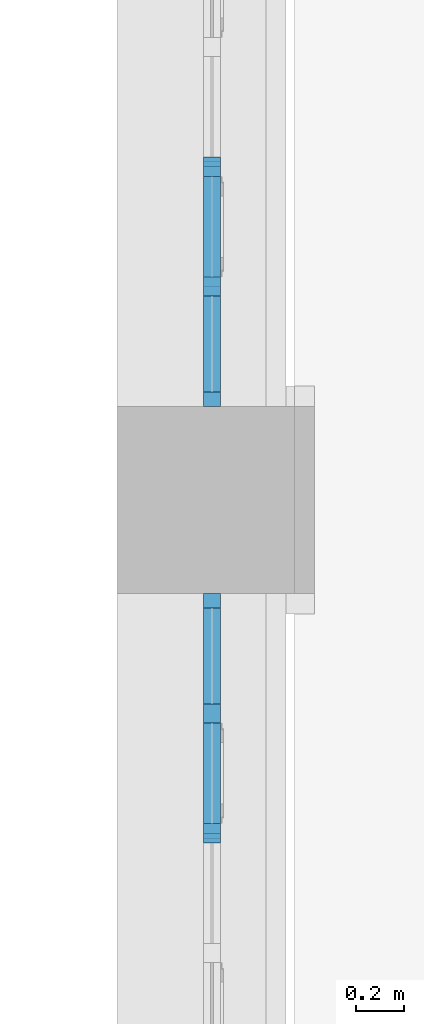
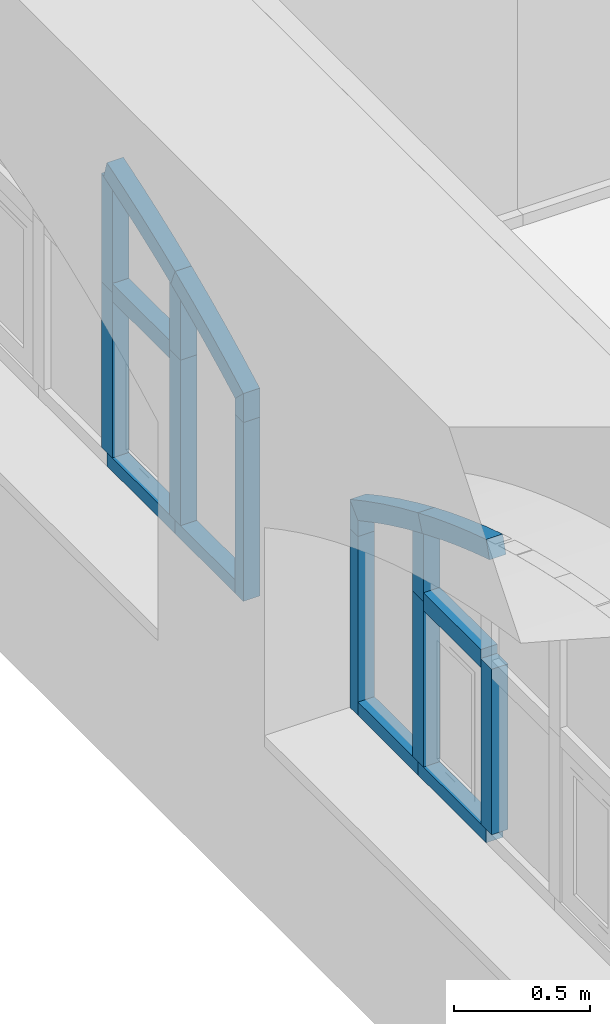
# One storey, part 9 of 32: 21 members, 2 elements without a shape of their own.
"""IFC2X3 building model written with IfcOpenShell, lengths in millimetres."""

import ifcopenshell
import ifcopenshell.guid

model = None  # the IFC model being written
_history = None  # IfcOwnerHistory: only IFC2X3 demands one
_inside = {}  # id of a spatial element -> (the spatial element, [elements in it])
_under = {}  # id of a project, library or spatial element -> (it, [spatial elements below it])
_declared = {}  # id of a project -> (the project, [libraries it declares])
_typed = {}  # id of a type object -> (the type object, [elements of that type])
_made_of = {}  # id of a material, layer set ... -> (it, [elements and type objects made of it])


def new_model(schema):
    """Start an empty IFC model of exactly this schema.

    Asked for "IFC4X3", IfcOpenShell would pick the latest addendum, in which some entities
    have other attributes; the version numbers below select the first issue.
    IFC2X3 requires an IfcOwnerHistory on every rooted entity: one is made here for all.
    """
    global model, _history
    if schema == "IFC4X3":
        model = ifcopenshell.file(schema_version=(4, 3, 0, 0))
    else:
        model = ifcopenshell.file(schema=schema)
    _inside.clear()
    _under.clear()
    _declared.clear()
    _typed.clear()
    _made_of.clear()
    _history = None
    if model.schema == "IFC2X3":
        org = make("IfcOrganization", Name="unknown")
        user = make(
            "IfcPersonAndOrganization",
            ThePerson=make("IfcPerson", FamilyName="unknown"),
            TheOrganization=org,
        )
        app = make(
            "IfcApplication",
            ApplicationDeveloper=org,
            Version="unknown",
            ApplicationFullName="unknown",
            ApplicationIdentifier="unknown",
        )
        _history = make(
            "IfcOwnerHistory",
            OwningUser=user,
            OwningApplication=app,
            ChangeAction="ADDED",
            CreationDate=0,
        )
    return model


def make(cls, **values):
    """One entity of the class cls with the attributes given. An attribute that is None is left unset."""
    return model.create_entity(
        cls, **{name: value for name, value in values.items() if value is not None}
    )


def entity(cls, *values):
    """Any entity or typed value of the class cls, its attributes in the order of the schema. None: left unset."""
    e = model.create_entity(cls)
    for i, value in enumerate(values):
        if value is not None:
            e[i] = value
    return e


def rooted(cls, **values):
    """An entity with a GlobalId (a new one), such as an element, a storey or a relation."""
    return make(cls, GlobalId=ifcopenshell.guid.new(), OwnerHistory=_history, **values)


def si_unit(unit_type, name, prefix=None):
    """IfcSIUnit, for example si_unit("LENGTHUNIT", "METRE", prefix="MILLI")."""
    return make("IfcSIUnit", UnitType=unit_type, Prefix=prefix, Name=name)


def converted_unit(unit_type, name, factor, base, dimensions=None, offset=None):
    """IfcConversionBasedUnit, such as the inch: factor (a typed value) times the base unit."""
    return make(
        "IfcConversionBasedUnit"
        if offset is None
        else "IfcConversionBasedUnitWithOffset",
        ConversionOffset=offset,
        Dimensions=None
        if dimensions is None
        else entity("IfcDimensionalExponents", *dimensions),
        UnitType=unit_type,
        Name=name,
        ConversionFactor=make(
            "IfcMeasureWithUnit", ValueComponent=factor, UnitComponent=base
        ),
    )


def derived_unit(unit_type, elements):
    """IfcDerivedUnit: a product of units, each with its exponent."""
    return make(
        "IfcDerivedUnit",
        Elements=[
            make("IfcDerivedUnitElement", Unit=unit, Exponent=power)
            for unit, power in elements
        ],
        UnitType=unit_type,
    )


def assignment(units):
    """IfcUnitAssignment: the units of a project."""
    return None if units is None else make("IfcUnitAssignment", Units=units)


def point(xyz):
    """IfcCartesianPoint."""
    return None if xyz is None else make("IfcCartesianPoint", Coordinates=xyz)


def direction(xyz):
    """IfcDirection."""
    return None if xyz is None else make("IfcDirection", DirectionRatios=xyz)


def frame(location, z_axis=None, x_axis=None):
    """IfcAxis2Placement3D, a coordinate frame: its origin and axes. An axis left out is left unset."""
    return make(
        "IfcAxis2Placement3D",
        Location=point(location),
        Axis=direction(z_axis),
        RefDirection=direction(x_axis),
    )


def frame_2d(location, x_axis=None):
    """IfcAxis2Placement2D, a coordinate frame in the plane: its origin and x axis."""
    return make(
        "IfcAxis2Placement2D", Location=point(location), RefDirection=direction(x_axis)
    )


def origin():
    """The frame at (0, 0, 0) with its axes left unset."""
    return frame((0.0, 0.0, 0.0))


def place(relative_to, where):
    """IfcLocalPlacement: puts the frame where relative to a parent placement (None: the world)."""
    return make(
        "IfcLocalPlacement", PlacementRelTo=relative_to, RelativePlacement=where
    )


def context(
    kind, dimensions, precision=None, world=None, true_north=None, identifier=None
):
    """IfcGeometricRepresentationContext, for example the 3D "Model" context."""
    return make(
        "IfcGeometricRepresentationContext",
        ContextIdentifier=identifier,
        ContextType=kind,
        CoordinateSpaceDimension=dimensions,
        Precision=precision,
        WorldCoordinateSystem=world,
        TrueNorth=true_north,
    )


def subcontext(parent, identifier, kind, view, scale=None):
    """IfcGeometricRepresentationSubContext, for example "Body" below "Model"."""
    return make(
        "IfcGeometricRepresentationSubContext",
        ContextIdentifier=identifier,
        ContextType=kind,
        ParentContext=parent,
        TargetScale=scale,
        TargetView=view,
    )


def project(units=None, contexts=None):
    """IfcProject with its units and contexts."""
    return rooted(
        "IfcProject",
        Name="project",
        RepresentationContexts=contexts,
        UnitsInContext=assignment(units),
    )


def spatial(cls, under=None, at=None, **own):
    """A site, building, storey or space (cls), placed at a placement, below another one or the project."""
    s = rooted(cls, ObjectPlacement=at, **own)
    if under is not None:
        _under.setdefault(under.id(), (under, []))[1].append(s)
    return s


def polyline(points):
    """IfcPolyline through the points."""
    return make("IfcPolyline", Points=[point(p) for p in points])


def circle_curve(where, radius):
    """IfcCircle in the frame where."""
    return make("IfcCircle", Position=where, Radius=radius)


def parameter(value):
    """IfcParameterValue: where a trimmed curve begins or ends, as a parameter of its basis curve."""
    return model.create_entity("IfcParameterValue", value)


def trimmed(basis, trim1, trim2, sense, master):
    """IfcTrimmedCurve: the piece of a basis curve between two trims."""
    return make(
        "IfcTrimmedCurve",
        BasisCurve=basis,
        Trim1=trim1,
        Trim2=trim2,
        SenseAgreement=sense,
        MasterRepresentation=master,
    )


def segment(curve, same_sense, transition):
    """IfcCompositeCurveSegment."""
    return make(
        "IfcCompositeCurveSegment",
        Transition=transition,
        SameSense=same_sense,
        ParentCurve=curve,
    )


def composite_curve(segments, self_intersect=None):
    """IfcCompositeCurve: segments joined end to end."""
    return make("IfcCompositeCurve", Segments=segments, SelfIntersect=self_intersect)


def profile(cls, at=None, kind="AREA", **sizes):
    """A parametric profile (cls). Its sizes go by their IFC names, for example OverallWidth=200.0."""
    return make(cls, ProfileType=kind, Position=at, **sizes)


def rectangle(**sizes):
    """IfcRectangleProfileDef."""
    return profile("IfcRectangleProfileDef", **sizes)


def outline(outer, holes=None, kind="AREA"):
    """IfcArbitraryClosedProfileDef: a profile drawn as a closed curve; with holes, ...WithVoids."""
    if holes is None:
        return make("IfcArbitraryClosedProfileDef", ProfileType=kind, OuterCurve=outer)
    return make(
        "IfcArbitraryProfileDefWithVoids",
        ProfileType=kind,
        OuterCurve=outer,
        InnerCurves=holes,
    )


def extrude(swept, where, along, depth):
    """IfcExtrudedAreaSolid: the profile swept, set in the frame where, extruded along a direction by depth."""
    return make(
        "IfcExtrudedAreaSolid",
        SweptArea=swept,
        Position=where,
        ExtrudedDirection=direction(along),
        Depth=depth,
    )


def shape(context_of_items, identifier, shape_type, items):
    """IfcShapeRepresentation: the items that make up one representation, for example the "Body"."""
    return make(
        "IfcShapeRepresentation",
        ContextOfItems=context_of_items,
        RepresentationIdentifier=identifier,
        RepresentationType=shape_type,
        Items=items,
    )


def source(mapping_origin, context_of_items, identifier, shape_type, items):
    """IfcRepresentationMap: a shape defined once, which mapped items show again and again."""
    return make(
        "IfcRepresentationMap",
        MappingOrigin=mapping_origin,
        MappedRepresentation=shape(context_of_items, identifier, shape_type, items),
    )


def transform(
    local_origin,
    x_axis=None,
    y_axis=None,
    z_axis=None,
    scale=None,
    scale2=None,
    scale3=None,
    uniform=True,
):
    """IfcCartesianTransformationOperator3D, or its non-uniform kind. x_axis, y_axis, z_axis: its Axis1, 2, 3."""
    if uniform:
        return make(
            "IfcCartesianTransformationOperator3D",
            Axis1=direction(x_axis),
            Axis2=direction(y_axis),
            LocalOrigin=point(local_origin),
            Scale=scale,
            Axis3=direction(z_axis),
        )
    return make(
        "IfcCartesianTransformationOperator3DnonUniform",
        Axis1=direction(x_axis),
        Axis2=direction(y_axis),
        LocalOrigin=point(local_origin),
        Scale=scale,
        Axis3=direction(z_axis),
        Scale2=scale2,
        Scale3=scale3,
    )


def mapped(mapping_source, mapping_target):
    """IfcMappedItem: shows the shape of a source again, moved by a transform."""
    return make(
        "IfcMappedItem", MappingSource=mapping_source, MappingTarget=mapping_target
    )


def material(Name=None, Category=None):
    """IfcMaterial."""
    return make("IfcMaterial", Name=Name, Category=Category)


def made_of(thing, what):
    """Note that an element or type object is made of a material, layer set ...; save() writes the relation."""
    if what is not None:
        _made_of.setdefault(what.id(), (what, []))[1].append(thing)
    return thing


def type_object(cls, material=None, **own):
    """A type object (cls), such as IfcWallType, which elements share."""
    return made_of(rooted(cls, **own), material)


def type_shapes(of_type, sources):
    """Give a type object the sources (RepresentationMaps) that its elements show as mapped items."""
    of_type.RepresentationMaps = sources


def element(
    cls,
    number,
    at=None,
    inside=None,
    cuts=None,
    type_object=None,
    material=None,
    context=None,
    identifier="Body",
    shape_type=None,
    held_by="IfcProductDefinitionShape",
    body=None,
    shapes=None,
    **own,
):
    """One element of the class cls, such as IfcWall. Its Tag is "e" and its number.

    at: its placement. inside: the storey or other place that contains it. cuts: it is an
    opening in that element (IfcRelVoidsElement). A single representation is given by context,
    identifier, shape_type and body (its items); several are given by shapes. held_by: the class
    of the entity that holds the representations. save() writes the other relations.
    """
    e = rooted(cls, Tag="e%d" % number, ObjectPlacement=at, **own)
    if body is not None:
        shapes = [shape(context, identifier, shape_type, body)]
    if shapes is not None:
        e.Representation = make(held_by, Representations=shapes)
    if inside is not None:
        _inside.setdefault(inside.id(), (inside, []))[1].append(e)
    if cuts is not None:
        rooted(
            "IfcRelVoidsElement", RelatingBuildingElement=cuts, RelatedOpeningElement=e
        )
    if type_object is not None:
        _typed.setdefault(type_object.id(), (type_object, []))[1].append(e)
    return made_of(e, material)


def aggregate(whole, parts):
    """IfcRelAggregates: a whole, such as a stair, and the parts it consists of."""
    return rooted("IfcRelAggregates", RelatingObject=whole, RelatedObjects=parts)


def save(model, path):
    """Write the relations noted so far, then the file.

    IfcRelAggregates (storeys below a building ...), IfcRelContainedInSpatialStructure (elements
    in a storey), IfcRelDefinesByType, IfcRelAssociatesMaterial and IfcRelDeclares: one each for
    every whole, place, type object, material and project.
    """
    for whole, parts in _under.values():
        aggregate(whole, parts)
    for where, things in _inside.values():
        rooted(
            "IfcRelContainedInSpatialStructure",
            RelatedElements=things,
            RelatingStructure=where,
        )
    for kind, things in _typed.values():
        rooted("IfcRelDefinesByType", RelatedObjects=things, RelatingType=kind)
    for what, things in _made_of.values():
        rooted("IfcRelAssociatesMaterial", RelatedObjects=things, RelatingMaterial=what)
    for by, libraries in _declared.values():
        rooted("IfcRelDeclares", RelatingContext=by, RelatedDefinitions=libraries)
    model.write(path)


model = new_model("IFC2X3")

# Units and contexts
model_context = context("Model", 3, precision=0.01, world=origin(), true_north=direction((6.123031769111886e-17, 1.0)))
body_context = subcontext(model_context, "Body", "Model", "MODEL_VIEW")
ifc_project = project(units=[si_unit("LENGTHUNIT", "METRE", prefix="MILLI"), si_unit("AREAUNIT", "SQUARE_METRE"), si_unit("VOLUMEUNIT", "CUBIC_METRE"), converted_unit("PLANEANGLEUNIT", "DEGREE", entity("IfcPlaneAngleMeasure", 0.017453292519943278), si_unit("PLANEANGLEUNIT", "RADIAN"), dimensions=[0, 0, 0, 0, 0, 0, 0]), si_unit("MASSUNIT", "GRAM", prefix="KILO"), derived_unit("MASSDENSITYUNIT", [(si_unit("MASSUNIT", "GRAM", prefix="KILO"), 1), (si_unit("LENGTHUNIT", "METRE"), -3)]), derived_unit("IONCONCENTRATIONUNIT", [(si_unit("MASSUNIT", "GRAM", prefix="KILO"), 1), (si_unit("LENGTHUNIT", "METRE"), -3)]), derived_unit("MOMENTOFINERTIAUNIT", [(si_unit("LENGTHUNIT", "METRE"), 4)]), si_unit("TIMEUNIT", "SECOND"), si_unit("FREQUENCYUNIT", "HERTZ"), si_unit("THERMODYNAMICTEMPERATUREUNIT", "DEGREE_CELSIUS"), derived_unit("THERMALTRANSMITTANCEUNIT", [(si_unit("MASSUNIT", "GRAM", prefix="KILO"), 1), (si_unit("THERMODYNAMICTEMPERATUREUNIT", "KELVIN"), -1), (si_unit("TIMEUNIT", "SECOND"), -3)]), derived_unit("THERMALCONDUCTANCEUNIT", [(si_unit("MASSUNIT", "GRAM", prefix="KILO"), 1), (si_unit("THERMODYNAMICTEMPERATUREUNIT", "KELVIN"), -1), (si_unit("TIMEUNIT", "SECOND"), -3), (si_unit("LENGTHUNIT", "METRE"), 1)]), derived_unit("VOLUMETRICFLOWRATEUNIT", [(si_unit("LENGTHUNIT", "METRE", prefix="DECI"), 3), (si_unit("TIMEUNIT", "SECOND"), -1)]), derived_unit("MASSFLOWRATEUNIT", [(si_unit("MASSUNIT", "GRAM", prefix="KILO"), 1), (si_unit("TIMEUNIT", "SECOND"), -1)]), derived_unit("ROTATIONALFREQUENCYUNIT", [(si_unit("TIMEUNIT", "SECOND"), -1)]), si_unit("ELECTRICCURRENTUNIT", "AMPERE"), si_unit("ELECTRICVOLTAGEUNIT", "VOLT"), si_unit("POWERUNIT", "WATT"), si_unit("FORCEUNIT", "NEWTON", prefix="KILO"), si_unit("ILLUMINANCEUNIT", "LUX"), si_unit("LUMINOUSFLUXUNIT", "LUMEN"), si_unit("LUMINOUSINTENSITYUNIT", "CANDELA"), si_unit("ENERGYUNIT", "JOULE"), derived_unit("USERDEFINED", [(si_unit("MASSUNIT", "GRAM", prefix="KILO"), -1), (si_unit("LENGTHUNIT", "METRE"), -2), (si_unit("TIMEUNIT", "SECOND"), 3), (si_unit("LUMINOUSFLUXUNIT", "LUMEN"), 1)]), derived_unit("USERDEFINED", [(si_unit("MASSUNIT", "GRAM", prefix="KILO"), 1), (si_unit("TIMEUNIT", "SECOND"), -3), (si_unit("LENGTHUNIT", "METRE"), 3), (si_unit("ELECTRICCURRENTUNIT", "AMPERE"), -2)]), derived_unit("SOUNDPOWERUNIT", [(si_unit("MASSUNIT", "GRAM", prefix="KILO"), 1), (si_unit("TIMEUNIT", "SECOND"), -3), (si_unit("LENGTHUNIT", "METRE"), 2)]), derived_unit("SOUNDPRESSUREUNIT", [(si_unit("MASSUNIT", "GRAM", prefix="KILO"), 1), (si_unit("LENGTHUNIT", "METRE"), -1), (si_unit("TIMEUNIT", "SECOND"), -2)]), derived_unit("LINEARVELOCITYUNIT", [(si_unit("LENGTHUNIT", "METRE"), 1), (si_unit("TIMEUNIT", "SECOND"), -1)]), si_unit("PRESSUREUNIT", "PASCAL"), derived_unit("USERDEFINED", [(si_unit("MASSUNIT", "GRAM", prefix="KILO"), 1), (si_unit("LENGTHUNIT", "METRE"), -2), (si_unit("TIMEUNIT", "SECOND"), -2)]), derived_unit("LINEARFORCEUNIT", [(si_unit("MASSUNIT", "GRAM", prefix="KILO"), 1), (si_unit("TIMEUNIT", "SECOND"), -2)]), derived_unit("PLANARFORCEUNIT", [(si_unit("MASSUNIT", "GRAM", prefix="KILO"), 1), (si_unit("LENGTHUNIT", "METRE"), -1), (si_unit("TIMEUNIT", "SECOND"), -2)]), derived_unit("SPECIFICHEATCAPACITYUNIT", [(si_unit("THERMODYNAMICTEMPERATUREUNIT", "KELVIN"), -1), (si_unit("LENGTHUNIT", "METRE"), 2), (si_unit("TIMEUNIT", "SECOND"), -2)]), derived_unit("HEATFLUXDENSITYUNIT", [(si_unit("MASSUNIT", "GRAM", prefix="KILO"), 1), (si_unit("TIMEUNIT", "SECOND"), -3)]), derived_unit("HEATINGVALUEUNIT", [(si_unit("LENGTHUNIT", "METRE"), 2), (si_unit("TIMEUNIT", "SECOND"), -2)]), derived_unit("VAPORPERMEABILITYUNIT", [(si_unit("LENGTHUNIT", "METRE"), -1), (si_unit("TIMEUNIT", "SECOND"), 1)]), derived_unit("DYNAMICVISCOSITYUNIT", [(si_unit("MASSUNIT", "GRAM", prefix="KILO"), 1), (si_unit("TIMEUNIT", "SECOND"), -1), (si_unit("LENGTHUNIT", "METRE"), -1)]), derived_unit("THERMALEXPANSIONCOEFFICIENTUNIT", [(si_unit("THERMODYNAMICTEMPERATUREUNIT", "KELVIN"), -1)]), derived_unit("MODULUSOFELASTICITYUNIT", [(si_unit("MASSUNIT", "GRAM", prefix="KILO"), 1), (si_unit("LENGTHUNIT", "METRE"), -1), (si_unit("TIMEUNIT", "SECOND"), -2)]), derived_unit("ISOTHERMALMOISTURECAPACITYUNIT", [(si_unit("MASSUNIT", "GRAM", prefix="KILO"), -1), (si_unit("LENGTHUNIT", "METRE"), 3)]), derived_unit("MOISTUREDIFFUSIVITYUNIT", [(si_unit("TIMEUNIT", "SECOND"), -1), (si_unit("LENGTHUNIT", "METRE"), 2)]), derived_unit("MASSPERLENGTHUNIT", [(si_unit("MASSUNIT", "GRAM", prefix="KILO"), 1), (si_unit("LENGTHUNIT", "METRE"), -1)]), derived_unit("THERMALRESISTANCEUNIT", [(si_unit("MASSUNIT", "GRAM", prefix="KILO"), -1), (si_unit("TIMEUNIT", "SECOND"), 3), (si_unit("THERMODYNAMICTEMPERATUREUNIT", "KELVIN"), 1)]), derived_unit("ACCELERATIONUNIT", [(si_unit("LENGTHUNIT", "METRE"), 1), (si_unit("TIMEUNIT", "SECOND"), -2)]), derived_unit("ANGULARVELOCITYUNIT", [(si_unit("TIMEUNIT", "SECOND"), -1), (si_unit("PLANEANGLEUNIT", "RADIAN"), 1)]), derived_unit("LINEARSTIFFNESSUNIT", [(si_unit("MASSUNIT", "GRAM", prefix="KILO"), 1), (si_unit("TIMEUNIT", "SECOND"), -2)]), derived_unit("WARPINGCONSTANTUNIT", [(si_unit("LENGTHUNIT", "METRE"), 6)]), derived_unit("LINEARMOMENTUNIT", [(si_unit("MASSUNIT", "GRAM", prefix="KILO"), 1), (si_unit("LENGTHUNIT", "METRE"), 1), (si_unit("TIMEUNIT", "SECOND"), -2)]), derived_unit("TORQUEUNIT", [(si_unit("MASSUNIT", "GRAM", prefix="KILO"), 1), (si_unit("LENGTHUNIT", "METRE"), 2), (si_unit("TIMEUNIT", "SECOND"), -2)])], contexts=[model_context])

# Site, building, storey
site_placement = place(None, origin())
site = spatial("IfcSite", under=ifc_project, at=site_placement, Name="Default", CompositionType="ELEMENT")
building_placement = place(site_placement, origin())
building = spatial("IfcBuilding", under=site, at=building_placement, Name="Eesti Rahvusraamatukogu hoone renoveerimise projekteerimistööd", CompositionType="ELEMENT")
storey_placement = place(building_placement, frame((0.0, 0.0, 4950.000000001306)))
storey = spatial("IfcBuildingStorey", under=building, at=storey_placement, Name="2. korrus", CompositionType="ELEMENT", Elevation=4950.000000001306)

# Curtain wall, member
curtain_wall_type = type_object("IfcCurtainWallType", Name="Curtain Wall:Ak-04", PredefinedType="NOTDEFINED")
curtain_wall_1_placement = place(storey_placement, frame((0.0, 0.0, -4950.000000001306)))
curtain_wall_1 = element("IfcCurtainWall", 1, at=curtain_wall_1_placement, inside=storey, type_object=curtain_wall_type, Name="Curtain Wall:Ak-04", ObjectType="Curtain Wall:Ak-04")
ifc_material = material(Name="LUMION_dark steel window frames")
member_type_1 = type_object("IfcMemberType", Name="Rectangular Mullion:NEW 80x70mm", PredefinedType="MULLION", material=ifc_material)
shared_shape_1 = source(origin(), body_context, "Body", "SweptSolid", [
    extrude(rectangle(XDim=80.0, YDim=70.0, at=frame_2d((0.0, -3.552713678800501e-15), x_axis=(1.0, 0.0))), frame((0.0, 0.0, -420.0), z_axis=(0.0, 0.0, 1.0), x_axis=(-1.0, 0.0, 0.0)), (0.0, 0.0, 1.0), 419.999999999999),
])
type_shapes(member_type_1, [shared_shape_1])
member_1_placement = place(curtain_wall_1_placement, frame((-36383.9999999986, 19288.695591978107, 6550.000000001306), z_axis=(0.0, -1.0, 0.0), x_axis=(0.0, 0.0, 1.0)))
member_1 = element("IfcMember", 2, at=member_1_placement, type_object=member_type_1, material=ifc_material, Name="Rectangular Mullion:NEW 80x70mm", ObjectType="Rectangular Mullion:NEW 80x70mm", context=body_context, shape_type="MappedRepresentation", body=[
    mapped(shared_shape_1, transform((0.0, 0.0, 0.0), scale=1.0)),
])

curtain_wall_2_placement = place(storey_placement, frame((0.0, 0.0, -4950.000000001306)))
curtain_wall_2 = element("IfcCurtainWall", 3, at=curtain_wall_2_placement, inside=storey, type_object=curtain_wall_type, Name="Curtain Wall:Ak-04", ObjectType="Curtain Wall:Ak-04")
member_2_placement = place(curtain_wall_2_placement, frame((-36383.999999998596, 17008.695591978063, 6550.000000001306), z_axis=(0.0, -1.0, 0.0), x_axis=(0.0, 0.0, 1.0)))
member_2 = element("IfcMember", 4, at=member_2_placement, type_object=member_type_1, material=ifc_material, Name="Rectangular Mullion:NEW 80x70mm", ObjectType="Rectangular Mullion:NEW 80x70mm", context=body_context, shape_type="MappedRepresentation", body=[
    mapped(shared_shape_1, transform((0.0, 0.0, 0.0), scale=1.0)),
])

# Member
member_type_2 = type_object("IfcMemberType", Name="Rectangular Mullion:NEW 60x70mm", PredefinedType="MULLION", material=ifc_material)
shared_shape_2 = source(origin(), body_context, "Body", "SweptSolid", [
    extrude(rectangle(XDim=60.0, YDim=70.0, at=frame_2d((0.0, 3.552713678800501e-15), x_axis=(1.0, 0.0))), frame((-30.0, 0.0, -500.0), z_axis=(0.0, 0.0, 1.0), x_axis=(-1.0, 0.0, 0.0)), (0.0, 0.0, 1.0), 499.999999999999),
])
type_shapes(member_type_2, [shared_shape_2])
member_3_placement = place(curtain_wall_1_placement, frame((-36383.9999999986, 19748.695591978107, 5750.000000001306), z_axis=(0.0, 1.0, 0.0), x_axis=(0.0, 0.0, -1.0)))
member_3 = element("IfcMember", 5, at=member_3_placement, type_object=member_type_2, material=ifc_material, Name="Rectangular Mullion:NEW 60x70mm", ObjectType="Rectangular Mullion:NEW 60x70mm", context=body_context, shape_type="MappedRepresentation", body=[
    mapped(shared_shape_2, transform((0.0, 0.0, 0.0), scale=1.0)),
])

member_4_placement = place(curtain_wall_2_placement, frame((-36383.999999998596, 17468.695591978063, 5750.000000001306), z_axis=(0.0, 1.0, 0.0), x_axis=(0.0, 0.0, -1.0)))
member_4 = element("IfcMember", 6, at=member_4_placement, type_object=member_type_2, material=ifc_material, Name="Rectangular Mullion:NEW 60x70mm", ObjectType="Rectangular Mullion:NEW 60x70mm", context=body_context, shape_type="MappedRepresentation", body=[
    mapped(shared_shape_2, transform((0.0, 0.0, 0.0), scale=1.0)),
])

member_type_3 = type_object("IfcMemberType", Name="Rectangular Mullion:NEW 60x70mm", PredefinedType="MULLION", material=ifc_material)
shared_shape_3 = source(origin(), body_context, "Body", "SweptSolid", [
    extrude(rectangle(XDim=60.0, YDim=70.0, at=frame_2d((0.0, 3.552713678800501e-15), x_axis=(1.0, 0.0))), frame((-30.0, 0.0, -440.0), z_axis=(0.0, 0.0, 1.0), x_axis=(-1.0, 0.0, 0.0)), (0.0, 0.0, 1.0), 439.9999999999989),
])
type_shapes(member_type_3, [shared_shape_3])
member_5_placement = place(curtain_wall_1_placement, frame((-36383.9999999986, 19248.695591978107, 5750.000000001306), z_axis=(0.0, 1.0, 0.0), x_axis=(0.0, 0.0, -1.0)))
member_5 = element("IfcMember", 7, at=member_5_placement, type_object=member_type_3, material=ifc_material, Name="Rectangular Mullion:NEW 60x70mm", ObjectType="Rectangular Mullion:NEW 60x70mm", context=body_context, shape_type="MappedRepresentation", body=[
    mapped(shared_shape_3, transform((0.0, 0.0, 0.0), scale=1.0)),
])

member_type_4 = type_object("IfcMemberType", Name="Rectangular Mullion:NEW 60x70mm", PredefinedType="MULLION", material=ifc_material)
shared_shape_4 = source(origin(), body_context, "Body", "SweptSolid", [
    extrude(rectangle(XDim=60.0, YDim=70.0, at=frame_2d((0.0, 3.552713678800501e-15), x_axis=(1.0, 0.0))), frame((-30.0, 0.0, -440.0), z_axis=(0.0, 0.0, 1.0), x_axis=(-1.0, 0.0, 0.0)), (0.0, 0.0, 1.0), 439.9999999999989),
])
type_shapes(member_type_4, [shared_shape_4])
member_6_placement = place(curtain_wall_2_placement, frame((-36383.999999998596, 17908.6955919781, 5750.000000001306), z_axis=(0.0, 1.0, 0.0), x_axis=(0.0, 0.0, -1.0)))
member_6 = element("IfcMember", 8, at=member_6_placement, type_object=member_type_4, material=ifc_material, Name="Rectangular Mullion:NEW 60x70mm", ObjectType="Rectangular Mullion:NEW 60x70mm", context=body_context, shape_type="MappedRepresentation", body=[
    mapped(shared_shape_4, transform((0.0, 0.0, 0.0), scale=1.0)),
])

member_type_5 = type_object("IfcMemberType", Name="Rectangular Mullion:NEW 80x70mm", PredefinedType="MULLION", material=ifc_material)
shared_shape_5 = source(origin(), body_context, "Body", "SweptSolid", [
    extrude(outline(composite_curve([segment(polyline([(-174.30772999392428, -46.24561306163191), (94.42385048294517, -46.24561306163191)]), True, "CONTINUOUS"), segment(trimmed(circle_curve(frame_2d((-4754.083849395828, 2093.7543869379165), x_axis=(0.8754595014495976, -0.48329148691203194)), 5299.776119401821), [parameter(5.085231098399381)], [parameter(5.924265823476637)], True, "PARAMETER"), True, "CONTINUOUS"), segment(trimmed(circle_curve(frame_2d((-4754.0838493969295, 2093.7543869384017), x_axis=(0.9206661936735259, -0.3903508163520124)), 5299.776119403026), [parameter(0.0)], [parameter(0.10296582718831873)], True, "PARAMETER"), True, "CONTINUOUS"), segment(polyline([(128.9507517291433, 33.75438693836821), (-174.30772999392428, 33.75438693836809)]), True, "CONTINUOUS"), segment(polyline([(-174.30772999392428, 33.75438693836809), (-174.30772999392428, -46.24561306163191)]), True, "CONTINUOUS")], self_intersect=False)), frame((-6.245613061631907, -35.0, -174.30772999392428), z_axis=(0.0, 1.0, 0.0), x_axis=(0.0, 0.0, -1.0)), (0.0, 0.0, 1.0), 70.00000000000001),
])
type_shapes(member_type_5, [shared_shape_5])
member_7_placement = place(curtain_wall_1_placement, frame((-36383.9999999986, 19248.695591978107, 6550.000000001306), z_axis=(0.0, 0.0, -1.0), x_axis=(0.0, -1.0, 0.0)))
member_7 = element("IfcMember", 9, at=member_7_placement, type_object=member_type_5, material=ifc_material, Name="Rectangular Mullion:NEW 80x70mm", ObjectType="Rectangular Mullion:NEW 80x70mm", context=body_context, shape_type="MappedRepresentation", body=[
    mapped(shared_shape_5, transform((0.0, 0.0, 0.0), scale=1.0)),
])

member_type_6 = type_object("IfcMemberType", Name="Rectangular Mullion:NEW 80x70mm", PredefinedType="MULLION", material=ifc_material)
shared_shape_6 = source(origin(), body_context, "Body", "SweptSolid", [
    extrude(rectangle(XDim=80.0, YDim=70.0, at=frame_2d((0.0, -3.552713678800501e-15), x_axis=(1.0, 0.0))), frame((0.0, 0.0, -740.0), z_axis=(0.0, 0.0, 1.0), x_axis=(-1.0, 0.0, 0.0)), (0.0, 0.0, 1.0), 740.0),
])
type_shapes(member_type_6, [shared_shape_6])
member_8_placement = place(curtain_wall_1_placement, frame((-36383.9999999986, 19248.695591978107, 5810.000000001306), z_axis=(0.0, 0.0, -1.0), x_axis=(0.0, -1.0, 0.0)))
member_8 = element("IfcMember", 10, at=member_8_placement, type_object=member_type_6, material=ifc_material, Name="Rectangular Mullion:NEW 80x70mm", ObjectType="Rectangular Mullion:NEW 80x70mm", context=body_context, shape_type="MappedRepresentation", body=[
    mapped(shared_shape_6, transform((0.0, 0.0, 0.0), scale=1.0)),
])

member_9_placement = place(curtain_wall_1_placement, frame((-36383.9999999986, 19748.695591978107, 5810.000000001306), z_axis=(0.0, 0.0, -1.0), x_axis=(0.0, -1.0, 0.0)))
member_9 = element("IfcMember", 11, at=member_9_placement, type_object=member_type_6, material=ifc_material, Name="Rectangular Mullion:NEW 80x70mm", ObjectType="Rectangular Mullion:NEW 80x70mm", context=body_context, shape_type="MappedRepresentation", body=[
    mapped(shared_shape_6, transform((0.0, 0.0, 0.0), scale=1.0)),
])

member_10_placement = place(curtain_wall_2_placement, frame((-36383.999999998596, 16968.695591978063, 5810.000000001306), z_axis=(0.0, 0.0, -1.0), x_axis=(0.0, -1.0, 0.0)))
member_10 = element("IfcMember", 12, at=member_10_placement, type_object=member_type_6, material=ifc_material, Name="Rectangular Mullion:NEW 80x70mm", ObjectType="Rectangular Mullion:NEW 80x70mm", context=body_context, shape_type="MappedRepresentation", body=[
    mapped(shared_shape_6, transform((0.0, 0.0, 0.0), scale=1.0)),
])

member_11_placement = place(curtain_wall_2_placement, frame((-36383.999999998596, 17468.695591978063, 5810.000000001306), z_axis=(0.0, 0.0, -1.0), x_axis=(0.0, -1.0, 0.0)))
member_11 = element("IfcMember", 13, at=member_11_placement, type_object=member_type_6, material=ifc_material, Name="Rectangular Mullion:NEW 80x70mm", ObjectType="Rectangular Mullion:NEW 80x70mm", context=body_context, shape_type="MappedRepresentation", body=[
    mapped(shared_shape_6, transform((0.0, 0.0, 0.0), scale=1.0)),
])

member_type_7 = type_object("IfcMemberType", Name="Rectangular Mullion:NEW 80x70mm", PredefinedType="MULLION", material=ifc_material)
shared_shape_7 = source(origin(), body_context, "Body", "SweptSolid", [
    extrude(outline(composite_curve([segment(polyline([(-285.0515721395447, -44.75856233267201), (174.81782335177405, -44.75856233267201)]), True, "CONTINUOUS"), segment(trimmed(circle_curve(frame_2d((-4864.82769154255, 1595.2414376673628), x_axis=(0.9206661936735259, -0.3903508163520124)), 5299.776119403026), [parameter(4.950420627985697)], [parameter(5.674213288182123)], True, "PARAMETER"), True, "CONTINUOUS"), segment(trimmed(circle_curve(frame_2d((-4864.827691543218, 1595.2414376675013), x_axis=(0.9547498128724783, -0.297410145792)), 5299.776119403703), [parameter(0.0)], [parameter(0.18342876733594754)], True, "PARAMETER"), True, "CONTINUOUS"), segment(polyline([(200.15275420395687, 35.24143766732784), (-285.0515721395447, 35.24143766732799)]), True, "CONTINUOUS"), segment(polyline([(-285.0515721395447, 35.24143766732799), (-285.0515721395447, -44.75856233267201)]), True, "CONTINUOUS")], self_intersect=False)), frame((-4.758562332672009, -35.0, -285.0515721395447), z_axis=(0.0, 1.0, 0.0), x_axis=(0.0, 0.0, -1.0)), (0.0, 0.0, 1.0), 70.00000000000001),
])
type_shapes(member_type_7, [shared_shape_7])
member_12_placement = place(curtain_wall_1_placement, frame((-36383.9999999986, 19748.695591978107, 6550.000000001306), z_axis=(0.0, 0.0, -1.0), x_axis=(0.0, -1.0, 0.0)))
member_12 = element("IfcMember", 14, at=member_12_placement, type_object=member_type_7, material=ifc_material, Name="Rectangular Mullion:NEW 80x70mm", ObjectType="Rectangular Mullion:NEW 80x70mm", context=body_context, shape_type="MappedRepresentation", body=[
    mapped(shared_shape_7, transform((0.0, 0.0, 0.0), scale=1.0)),
])

member_type_8 = type_object("IfcMemberType", Name="Rectangular Mullion:NEW 80x70mm", PredefinedType="MULLION", material=ifc_material)
shared_shape_8 = source(origin(), body_context, "Body", "SweptSolid", [
    extrude(outline(composite_curve([segment(polyline([(-174.3077299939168, -33.75438693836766), (128.95075172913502, -33.75438693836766)]), True, "CONTINUOUS"), segment(trimmed(circle_curve(frame_2d((-4754.083849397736, -2093.7543869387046), x_axis=(0.9547498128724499, 0.2974101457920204)), 5299.776119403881), [parameter(5.5712474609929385)], [parameter(5.674213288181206)], True, "PARAMETER"), True, "CONTINUOUS"), segment(trimmed(circle_curve(frame_2d((-4754.083849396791, -2093.7543869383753), x_axis=(0.9206661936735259, 0.39035081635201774)), 5299.7761194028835), [parameter(0.0)], [parameter(0.8390347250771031)], True, "PARAMETER"), True, "CONTINUOUS"), segment(polyline([(94.42385048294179, 46.245613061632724), (-174.3077299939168, 46.24561306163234)]), True, "CONTINUOUS"), segment(polyline([(-174.3077299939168, 46.24561306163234), (-174.3077299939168, -33.75438693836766)]), True, "CONTINUOUS")], self_intersect=False)), frame((6.245613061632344, -35.0, -174.3077299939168), z_axis=(0.0, 1.0, 0.0), x_axis=(0.0, 0.0, -1.0)), (0.0, 0.0, 1.0), 70.00000000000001),
])
type_shapes(member_type_8, [shared_shape_8])
member_13_placement = place(curtain_wall_2_placement, frame((-36383.999999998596, 17468.695591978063, 6550.000000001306), z_axis=(0.0, 0.0, -1.0), x_axis=(0.0, -1.0, 0.0)))
member_13 = element("IfcMember", 15, at=member_13_placement, type_object=member_type_8, material=ifc_material, Name="Rectangular Mullion:NEW 80x70mm", ObjectType="Rectangular Mullion:NEW 80x70mm", context=body_context, shape_type="MappedRepresentation", body=[
    mapped(shared_shape_8, transform((0.0, 0.0, 0.0), scale=1.0)),
])

member_type_9 = type_object("IfcMemberType", Name="Rectangular Mullion:NEW 60x70mm", PredefinedType="MULLION", material=ifc_material)
shared_shape_9 = source(origin(), body_context, "Body", "SweptSolid", [
    extrude(outline(polyline([(-50.43550252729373, -30.0), (79.56449747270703, -30.0), (21.306507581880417, 30.0), (-50.43550252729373, 30.0), (-50.43550252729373, -30.0)])), frame((-30.0, -35.0, -50.43550252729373), z_axis=(0.0, 1.0, 0.0), x_axis=(0.0, 0.0, -1.0)), (0.0, 0.0, 1.0), 70.00000000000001),
])
type_shapes(member_type_9, [shared_shape_9])
member_14_placement = place(curtain_wall_1_placement, frame((-36383.9999999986, 18748.69559197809, 6550.000000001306), z_axis=(0.0, 0.0, -1.0), x_axis=(0.0, -1.0, 0.0)))
member_14 = element("IfcMember", 16, at=member_14_placement, type_object=member_type_9, material=ifc_material, Name="Rectangular Mullion:NEW 60x70mm", ObjectType="Rectangular Mullion:NEW 60x70mm", context=body_context, shape_type="MappedRepresentation", body=[
    mapped(shared_shape_9, transform((0.0, 0.0, 0.0), scale=1.0)),
])

member_type_10 = type_object("IfcMemberType", Name="Rectangular Mullion:NEW 60x70mm", PredefinedType="MULLION", material=ifc_material)
shared_shape_10 = source(origin(), body_context, "Body", "SweptSolid", [
    extrude(rectangle(XDim=60.0, YDim=70.0, at=frame_2d((0.0, -3.552713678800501e-15), x_axis=(1.0, 0.0))), frame((-30.0, 0.0, -800.0), z_axis=(0.0, 0.0, 1.0), x_axis=(-1.0, 0.0, 0.0)), (0.0, 0.0, 1.0), 800.0),
])
type_shapes(member_type_10, [shared_shape_10])
member_15_placement = place(curtain_wall_1_placement, frame((-36383.9999999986, 18748.69559197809, 5750.000000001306), z_axis=(0.0, 0.0, -1.0), x_axis=(0.0, -1.0, 0.0)))
member_15 = element("IfcMember", 17, at=member_15_placement, type_object=member_type_10, material=ifc_material, Name="Rectangular Mullion:NEW 60x70mm", ObjectType="Rectangular Mullion:NEW 60x70mm", context=body_context, shape_type="MappedRepresentation", body=[
    mapped(shared_shape_10, transform((0.0, 0.0, 0.0), scale=1.0)),
])

member_type_11 = type_object("IfcMemberType", Name="Rectangular Mullion:NEW 60x70mm", PredefinedType="MULLION", material=ifc_material)
shared_shape_11 = source(origin(), body_context, "Body", "SweptSolid", [
    extrude(rectangle(XDim=60.0, YDim=70.0, at=frame_2d((0.0, -3.552713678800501e-15), x_axis=(1.0, 0.0))), frame((-30.0, 0.0, -800.0), z_axis=(0.0, 0.0, 1.0), x_axis=(-1.0, 0.0, 0.0)), (0.0, 0.0, 1.0), 800.0),
])
type_shapes(member_type_11, [shared_shape_11])
member_16_placement = place(curtain_wall_2_placement, frame((-36383.999999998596, 17968.6955919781, 6550.000000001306), z_axis=(0.0, 0.0, 1.0), x_axis=(0.0, 1.0, 0.0)))
member_16 = element("IfcMember", 18, at=member_16_placement, type_object=member_type_11, material=ifc_material, Name="Rectangular Mullion:NEW 60x70mm", ObjectType="Rectangular Mullion:NEW 60x70mm", context=body_context, shape_type="MappedRepresentation", body=[
    mapped(shared_shape_11, transform((0.0, 0.0, 0.0), scale=1.0)),
])

member_type_12 = type_object("IfcMemberType", Name="Rectangular Mullion:NEW 60x70mm", PredefinedType="MULLION", material=ifc_material)
shared_shape_12 = source(origin(), body_context, "Body", "SweptSolid", [
    extrude(outline(polyline([(-79.56449747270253, -30.0), (50.43550252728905, -30.0), (50.43550252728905, 30.0), (-21.306507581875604, 30.0), (-79.56449747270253, -30.0)])), frame((-30.0, -35.0, -79.56449747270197), z_axis=(0.0, 1.0, 0.0), x_axis=(0.0, 0.0, -1.0)), (0.0, 0.0, 1.0), 70.00000000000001),
])
type_shapes(member_type_12, [shared_shape_12])
member_17_placement = place(curtain_wall_2_placement, frame((-36383.999999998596, 17968.6955919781, 6680.000000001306), z_axis=(0.0, 0.0, 1.0), x_axis=(0.0, 1.0, 0.0)))
member_17 = element("IfcMember", 19, at=member_17_placement, type_object=member_type_12, material=ifc_material, Name="Rectangular Mullion:NEW 60x70mm", ObjectType="Rectangular Mullion:NEW 60x70mm", context=body_context, shape_type="MappedRepresentation", body=[
    mapped(shared_shape_12, transform((0.0, 0.0, 0.0), scale=1.0)),
])

member_type_13 = type_object("IfcMemberType", Name="Rectangular Mullion:NEW 80x70mm", PredefinedType="MULLION", material=ifc_material)
shared_shape_13 = source(origin(), body_context, "Body", "SweptSolid", [
    extrude(outline(composite_curve([segment(polyline([(-53.08199940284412, -263.97691053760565), (26.91800059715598, -263.97691053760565)]), True, "CONTINUOUS"), segment(trimmed(circle_curve(frame_2d((5326.694120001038, -263.97691053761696), x_axis=(-0.9951001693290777, 0.09887190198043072)), 5299.776119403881), [parameter(3.5622212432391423e-13)], [parameter(5.674213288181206)], True, "PARAMETER"), False, "CONTINUOUS"), segment(polyline([(52.886006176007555, 260.02203445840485), (-26.722007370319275, 267.9317866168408)]), True, "CONTINUOUS"), segment(trimmed(circle_curve(frame_2d((5326.694120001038, -263.97691053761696), x_axis=(-0.9951001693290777, 0.09887190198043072)), 5379.776119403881), [parameter(3.5622212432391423e-13)], [parameter(5.674213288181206)], True, "PARAMETER"), True, "CONTINUOUS")], self_intersect=False)), frame((-53.081999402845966, -35.0, -263.9769105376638), z_axis=(0.0, 1.0, 0.0), x_axis=(-0.9951001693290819, 0.0, 0.09887190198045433)), (0.0, 0.0, 1.0), 70.00000000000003),
])
type_shapes(member_type_13, [shared_shape_13])
member_18_placement = place(curtain_wall_2_placement, frame((-36383.999999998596, 16968.695591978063, 7106.564123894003), z_axis=(0.0, -0.9547498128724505, 0.2974101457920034), x_axis=(0.0, 0.2974101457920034, 0.9547498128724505)))
member_18 = element("IfcMember", 20, at=member_18_placement, type_object=member_type_13, material=ifc_material, Name="Rectangular Mullion:NEW 80x70mm", ObjectType="Rectangular Mullion:NEW 80x70mm", context=body_context, shape_type="MappedRepresentation", body=[
    mapped(shared_shape_13, transform((0.0, 0.0, 0.0), scale=1.0)),
])

member_type_14 = type_object("IfcMemberType", Name="Rectangular Mullion:NEW 80x70mm", PredefinedType="MULLION", material=ifc_material)
shared_shape_14 = source(origin(), body_context, "Body", "SweptSolid", [
    extrude(outline(composite_curve([segment(trimmed(circle_curve(frame_2d((5012.255803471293, 1821.4299836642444), x_axis=(-0.9214052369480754, -0.3886031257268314)), 5379.776119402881), [parameter(354.0757341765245)], [parameter(359.99999999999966)], True, "PARAMETER"), True, "CONTINUOUS"), segment(polyline([(55.30191344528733, -269.16783204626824), (129.01433240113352, -238.07958198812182)]), True, "CONTINUOUS"), segment(trimmed(circle_curve(frame_2d((5012.255803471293, 1821.4299836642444), x_axis=(-0.9214052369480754, -0.3886031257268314)), 5299.776119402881), [parameter(354.33940494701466)], [parameter(359.99999999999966)], True, "PARAMETER"), False, "CONTINUOUS"), segment(polyline([(-50.313741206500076, 253.62370701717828), (-134.0025046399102, 253.62370701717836)]), True, "CONTINUOUS")], self_intersect=False)), frame((-53.64398821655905, -35.0, -269.50314648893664), z_axis=(0.0, -1.0, 0.0), x_axis=(-0.9214052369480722, 0.0, 0.3886031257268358)), (0.0, 0.0, -1.0), 70.00000000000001),
])
type_shapes(member_type_14, [shared_shape_14])
member_19_placement = place(curtain_wall_2_placement, frame((-36383.999999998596, 17468.695591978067, 6923.2018832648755), z_axis=(0.0, -0.9206661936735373, 0.3903508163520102), x_axis=(0.0, 0.3903508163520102, 0.9206661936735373)))
member_19 = element("IfcMember", 21, at=member_19_placement, type_object=member_type_14, material=ifc_material, Name="Rectangular Mullion:NEW 80x70mm", ObjectType="Rectangular Mullion:NEW 80x70mm", context=body_context, shape_type="MappedRepresentation", body=[
    mapped(shared_shape_14, transform((0.0, 0.0, 0.0), scale=1.0)),
])

aggregate(curtain_wall_2, [member_10, member_13, member_11, member_4, member_6, member_16, member_17, member_18, member_19, member_2])

member_type_15 = type_object("IfcMemberType", Name="Rectangular Mullion:NEW 80x70mm", PredefinedType="MULLION", material=ifc_material)
shared_shape_15 = source(origin(), body_context, "Body", "SweptSolid", [
    extrude(outline(composite_curve([segment(polyline([(-53.081999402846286, -263.9769105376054), (26.918000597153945, -263.9769105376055)]), True, "CONTINUOUS"), segment(trimmed(circle_curve(frame_2d((5326.694120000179, -263.97691053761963), x_axis=(-0.9951001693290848, 0.09887190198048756)), 5299.776119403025), [parameter(3.5622212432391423e-13)], [parameter(5.674213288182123)], True, "PARAMETER"), False, "CONTINUOUS"), segment(polyline([(52.886006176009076, 260.0220344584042), (-26.722007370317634, 267.9317866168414)]), True, "CONTINUOUS"), segment(trimmed(circle_curve(frame_2d((5326.694120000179, -263.97691053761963), x_axis=(-0.9951001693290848, 0.09887190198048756)), 5379.776119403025), [parameter(3.5622212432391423e-13)], [parameter(5.674213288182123)], True, "PARAMETER"), True, "CONTINUOUS")], self_intersect=False)), frame((-53.0819994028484, -35.0, -263.97691053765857), z_axis=(0.0, 1.0, 0.0), x_axis=(-0.9951001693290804, 0.0, 0.09887190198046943)), (0.0, 0.0, 1.0), 69.99999999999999),
])
type_shapes(member_type_15, [shared_shape_15])
member_20_placement = place(curtain_wall_1_placement, frame((-36383.9999999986, 19248.69559197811, 6923.2018832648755), z_axis=(0.0, -0.9206661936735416, -0.3903508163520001), x_axis=(0.0, -0.3903508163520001, 0.9206661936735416)))
member_20 = element("IfcMember", 22, at=member_20_placement, type_object=member_type_15, material=ifc_material, Name="Rectangular Mullion:NEW 80x70mm", ObjectType="Rectangular Mullion:NEW 80x70mm", context=body_context, shape_type="MappedRepresentation", body=[
    mapped(shared_shape_15, transform((0.0, 0.0, 0.0), scale=1.0)),
])

member_type_16 = type_object("IfcMemberType", Name="Rectangular Mullion:NEW 80x70mm", PredefinedType="MULLION", material=ifc_material)
shared_shape_16 = source(origin(), body_context, "Body", "SweptSolid", [
    extrude(outline(composite_curve([segment(polyline([(-53.643988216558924, -269.50314648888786), (26.35601178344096, -269.503146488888)]), True, "CONTINUOUS"), segment(trimmed(circle_curve(frame_2d((5326.132131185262, -269.5031464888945), x_axis=(-0.9946591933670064, 0.10321380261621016)), 5299.77611940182), [parameter(0.263670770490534)], [parameter(5.924265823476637)], True, "PARAMETER"), False, "CONTINUOUS"), segment(polyline([(52.19962066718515, 253.24228895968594), (-24.911644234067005, 285.7640040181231)]), True, "CONTINUOUS"), segment(trimmed(circle_curve(frame_2d((5326.132131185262, -269.5031464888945), x_axis=(-0.9946591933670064, 0.10321380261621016)), 5379.77611940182), [parameter(3.5622212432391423e-13)], [parameter(5.924265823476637)], True, "PARAMETER"), True, "CONTINUOUS")], self_intersect=False)), frame((-54.273385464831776, -35.0, -281.6665681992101), z_axis=(0.0, 1.0, 0.0), x_axis=(-0.9946591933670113, 0.0, 0.1032138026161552)), (0.0, 0.0, 1.0), 69.99999999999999),
])
type_shapes(member_type_16, [shared_shape_16])
member_21_placement = place(curtain_wall_1_placement, frame((-36383.9999999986, 18748.69559197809, 6680.000000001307), z_axis=(0.0, -0.8754595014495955, -0.48329148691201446), x_axis=(0.0, -0.48329148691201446, 0.8754595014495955)))
member_21 = element("IfcMember", 23, at=member_21_placement, type_object=member_type_16, material=ifc_material, Name="Rectangular Mullion:NEW 80x70mm", ObjectType="Rectangular Mullion:NEW 80x70mm", context=body_context, shape_type="MappedRepresentation", body=[
    mapped(shared_shape_16, transform((0.0, 0.0, 0.0), scale=1.0)),
])

aggregate(curtain_wall_1, [member_7, member_8, member_12, member_9, member_3, member_5, member_14, member_15, member_20, member_21, member_1])

save(model, "model.ifc")
